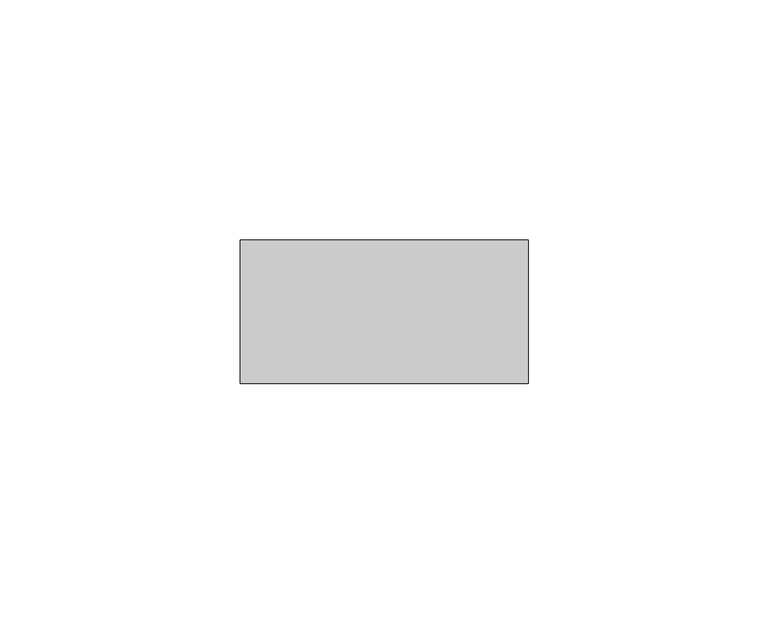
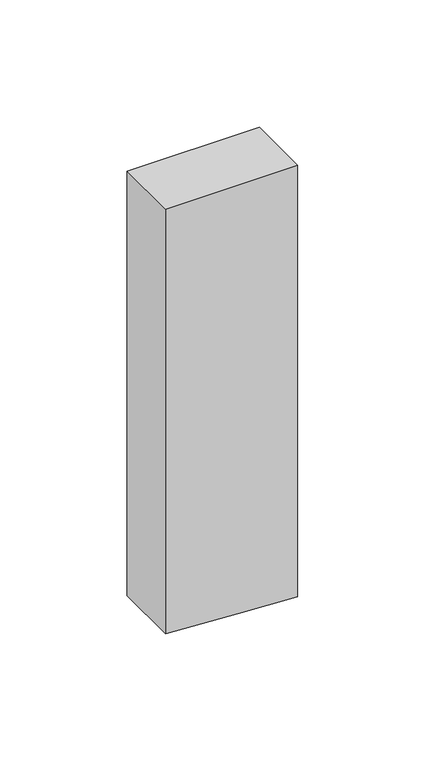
"""IFC4 building model written with IfcOpenShell, lengths in millimetres: member geometry, Прямоугольный импост : Квадрат 30 мм."""

from ifc_helpers import new_model, si_unit, frame, origin, place, context, project, spatial, polyline, outline, extrude, source, transform, mapped, element, save


def member_6f14a4df(model_context):
    return source(origin(), model_context, "Body", "SweptSolid", [
        extrude(outline(polyline([(0.0, 30.0), (0.0, -30.0), (-203.463973, -30.0), (-205.2719499, 2.7556035), (-206.7757305, 30.0), (0.0, 30.0)])), frame((0.0, -15.0, 0.0), z_axis=(0.0, 1.0, 0.0), x_axis=(0.0, 0.0, 1.0)), (0.0, 0.0, 1.0), 30.0),
    ])


if __name__ == "__main__":
    model = new_model("IFC4")
    model_context = context("Model", 3, world=origin())
    ifc_project = project(units=[si_unit("LENGTHUNIT", "METRE", prefix="MILLI")], contexts=[model_context])
    site = spatial("IfcSite", under=ifc_project)
    building = spatial("IfcBuilding", under=site)
    placement = place(None, origin())
    member_shape = member_6f14a4df(model_context)
    element("IfcMember", 1, ObjectType="Прямоугольный импост : Квадрат 30 мм", at=placement, inside=building, context=model_context, shape_type="MappedRepresentation", body=[
        mapped(member_shape, transform((0.0, 0.0, 0.0), x_axis=(1.0, 0.0, 0.0), y_axis=(0.0, 1.0, 0.0), z_axis=(0.0, 0.0, 1.0))),
    ])
    save(model, "model.ifc")
